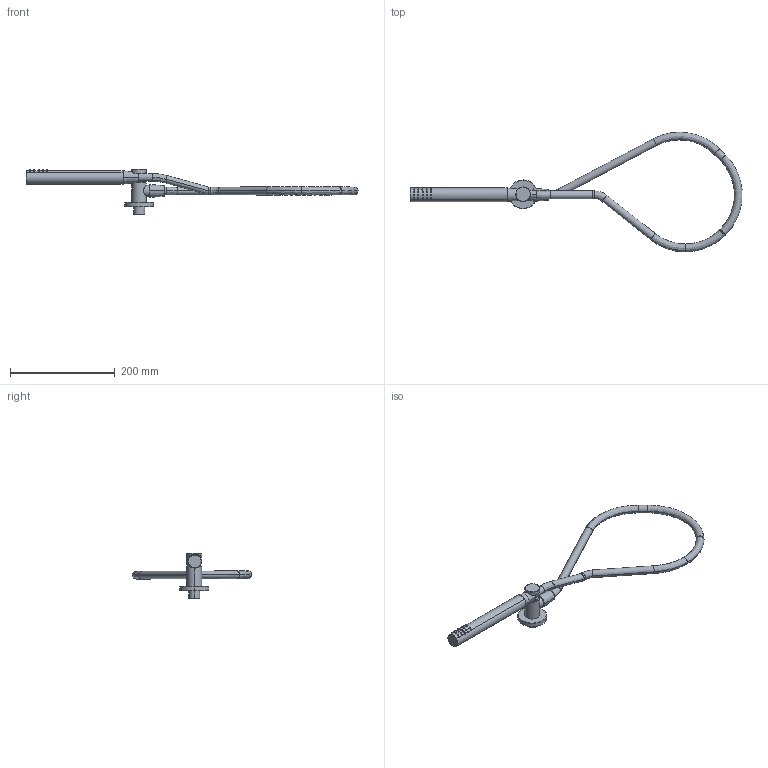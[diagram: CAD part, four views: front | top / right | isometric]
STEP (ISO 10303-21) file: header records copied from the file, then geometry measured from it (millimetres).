
FILE_DESCRIPTION (( 'STEP AP203' ), '1' );
FILE_NAME ('K6.STEP', '2025-06-11T08:31:48', ( '' ), ( '' ), 'SwSTEP 2.0', 'SolidWorks 2024', '' );
FILE_SCHEMA (( 'CONFIG_CONTROL_DESIGN' ));
Length unit declared in the file: millimetre
Products named in the file (4): C16.13.0001; DOC8; K6; PRE8
Assembly tree (3 placements, depth 2):
  K6
    PRE8
    DOC8
    C16.13.0001
Bounding box: 633.15 x 228.11 x 86 mm (x, y, z)
Volume: 325480.8 mm3; surface area: 85310.1 mm2
Topology: 8 solids, 8 shells, 230 faces, 463 edges, 277 vertices
Faces by surface type: cylinder 92, cone 58, plane 48, bspline 18, torus 14
Entity records: 7523 total; most frequent: CARTESIAN_POINT 2330, DIRECTION 1072, ORIENTED_EDGE 926, EDGE_CURVE 463, AXIS2_PLACEMENT_3D 458, VERTEX_POINT 277, EDGE_LOOP 260, CIRCLE 240
